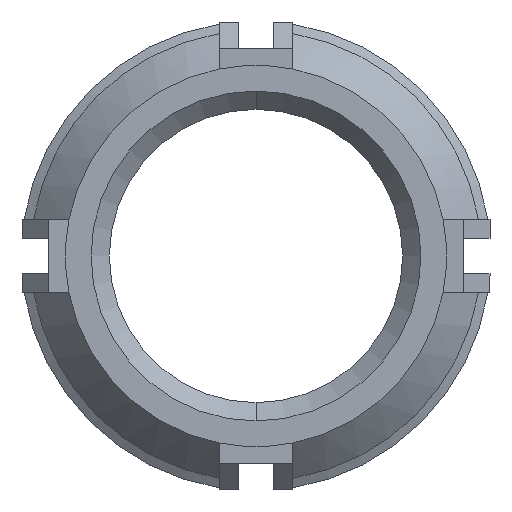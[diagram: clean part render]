
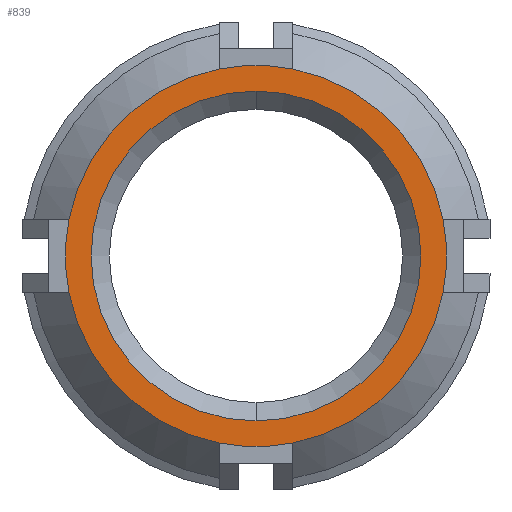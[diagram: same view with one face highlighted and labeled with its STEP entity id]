
A CAD part, front view. The second image highlights one B-rep face of the part: STEP entity #839.
In plain terms, the highlighted planar face has unit normal (0, -1, 0).
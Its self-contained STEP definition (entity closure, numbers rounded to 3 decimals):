
#14 = EDGE_CURVE ( 'NONE', #3335, #3286, #1915, .T. ) ;
#26 = DIRECTION ( 'NONE',  ( 0., -1., 0. ) ) ;
#195 = EDGE_CURVE ( 'NONE', #386, #4370, #1780, .T. ) ;
#244 = VERTEX_POINT ( 'NONE', #481 ) ;
#366 = CARTESIAN_POINT ( 'NONE',  ( 0., -16., 0. ) ) ;
#386 = VERTEX_POINT ( 'NONE', #577 ) ;
#388 = CIRCLE ( 'NONE', #2837, 6.5 ) ;
#393 = CARTESIAN_POINT ( 'NONE',  ( 0., -16., 0. ) ) ;
#407 = DIRECTION ( 'NONE',  ( 0., 0., -1. ) ) ;
#481 = CARTESIAN_POINT ( 'NONE',  ( 6.379, -16., 1.25 ) ) ;
#493 = DIRECTION ( 'NONE',  ( 0., 0., 1. ) ) ;
#508 = CARTESIAN_POINT ( 'NONE',  ( 0., -16., 0. ) ) ;
#555 = AXIS2_PLACEMENT_3D ( 'NONE', #1814, #3501, #4369 ) ;
#577 = CARTESIAN_POINT ( 'NONE',  ( -6.379, -16., -1.25 ) ) ;
#588 = DIRECTION ( 'NONE',  ( 0., 0., 1. ) ) ;
#799 = EDGE_LOOP ( 'NONE', ( #2552, #3495 ) ) ;
#839 = ADVANCED_FACE ( 'NONE', ( #2740, #4522 ), #930, .F. ) ;
#930 = PLANE ( 'NONE',  #1614 ) ;
#983 = DIRECTION ( 'NONE',  ( 0., 0., 1. ) ) ;
#1123 = AXIS2_PLACEMENT_3D ( 'NONE', #3550, #2201, #3479 ) ;
#1124 = CARTESIAN_POINT ( 'NONE',  ( 0., -16., -5.625 ) ) ;
#1142 = VERTEX_POINT ( 'NONE', #1303 ) ;
#1145 = AXIS2_PLACEMENT_3D ( 'NONE', #2681, #26, #493 ) ;
#1156 = EDGE_CURVE ( 'NONE', #3286, #3335, #2809, .T. ) ;
#1239 = DIRECTION ( 'NONE',  ( 0., 0., 1. ) ) ;
#1261 = CARTESIAN_POINT ( 'NONE',  ( -1.25, -16., -6.379 ) ) ;
#1303 = CARTESIAN_POINT ( 'NONE',  ( -1.25, -16., 6.379 ) ) ;
#1375 = EDGE_CURVE ( 'NONE', #1142, #1996, #3914, .T. ) ;
#1418 = DIRECTION ( 'NONE',  ( 0., 0., 1. ) ) ;
#1474 = CARTESIAN_POINT ( 'NONE',  ( 0., -16., 5.625 ) ) ;
#1614 = AXIS2_PLACEMENT_3D ( 'NONE', #1858, #3173, #1418 ) ;
#1770 = AXIS2_PLACEMENT_3D ( 'NONE', #5659, #3028, #4789 ) ;
#1780 = CIRCLE ( 'NONE', #1123, 6.5 ) ;
#1783 = ORIENTED_EDGE ( 'NONE', *, *, #2575, .T. ) ;
#1814 = CARTESIAN_POINT ( 'NONE',  ( 0., -16., 0. ) ) ;
#1858 = CARTESIAN_POINT ( 'NONE',  ( 0., -16., 0. ) ) ;
#1915 = CIRCLE ( 'NONE', #3118, 5.625 ) ;
#1945 = AXIS2_PLACEMENT_3D ( 'NONE', #393, #4469, #5455 ) ;
#1996 = VERTEX_POINT ( 'NONE', #2984 ) ;
#2201 = DIRECTION ( 'NONE',  ( 0., -1., 0. ) ) ;
#2399 = CARTESIAN_POINT ( 'NONE',  ( 0., -16., 0. ) ) ;
#2414 = ORIENTED_EDGE ( 'NONE', *, *, #4989, .T. ) ;
#2426 = ORIENTED_EDGE ( 'NONE', *, *, #4094, .T. ) ;
#2552 = ORIENTED_EDGE ( 'NONE', *, *, #14, .T. ) ;
#2569 = AXIS2_PLACEMENT_3D ( 'NONE', #508, #3155, #983 ) ;
#2575 = EDGE_CURVE ( 'NONE', #244, #4987, #388, .T. ) ;
#2628 = VERTEX_POINT ( 'NONE', #4336 ) ;
#2656 = ORIENTED_EDGE ( 'NONE', *, *, #5265, .T. ) ;
#2681 = CARTESIAN_POINT ( 'NONE',  ( 0., -16., 0. ) ) ;
#2740 = FACE_BOUND ( 'NONE', #799, .T. ) ;
#2809 = CIRCLE ( 'NONE', #2569, 5.625 ) ;
#2837 = AXIS2_PLACEMENT_3D ( 'NONE', #3445, #3462, #1239 ) ;
#2881 = ORIENTED_EDGE ( 'NONE', *, *, #4915, .T. ) ;
#2966 = CARTESIAN_POINT ( 'NONE',  ( 1.25, -16., -6.379 ) ) ;
#2984 = CARTESIAN_POINT ( 'NONE',  ( -6.379, -16., 1.25 ) ) ;
#3028 = DIRECTION ( 'NONE',  ( 0., -1., 0. ) ) ;
#3049 = CARTESIAN_POINT ( 'NONE',  ( 0., -16., 0. ) ) ;
#3118 = AXIS2_PLACEMENT_3D ( 'NONE', #366, #5159, #3464 ) ;
#3155 = DIRECTION ( 'NONE',  ( 0., 1., 0. ) ) ;
#3173 = DIRECTION ( 'NONE',  ( 0., 1., 0. ) ) ;
#3248 = DIRECTION ( 'NONE',  ( 0., -1., 0. ) ) ;
#3250 = EDGE_LOOP ( 'NONE', ( #2656, #4319, #2426, #3416, #2414, #1783, #2881, #3485 ) ) ;
#3286 = VERTEX_POINT ( 'NONE', #1474 ) ;
#3335 = VERTEX_POINT ( 'NONE', #1124 ) ;
#3341 = CIRCLE ( 'NONE', #1770, 6.5 ) ;
#3416 = ORIENTED_EDGE ( 'NONE', *, *, #4350, .T. ) ;
#3445 = CARTESIAN_POINT ( 'NONE',  ( 0., -16., 0. ) ) ;
#3462 = DIRECTION ( 'NONE',  ( 0., -1., 0. ) ) ;
#3464 = DIRECTION ( 'NONE',  ( 0., 0., 1. ) ) ;
#3479 = DIRECTION ( 'NONE',  ( 0., 0., 1. ) ) ;
#3485 = ORIENTED_EDGE ( 'NONE', *, *, #1375, .T. ) ;
#3495 = ORIENTED_EDGE ( 'NONE', *, *, #1156, .T. ) ;
#3501 = DIRECTION ( 'NONE',  ( 0., -1., 0. ) ) ;
#3550 = CARTESIAN_POINT ( 'NONE',  ( 0., -16., 0. ) ) ;
#3914 = CIRCLE ( 'NONE', #5566, 6.5 ) ;
#3965 = CIRCLE ( 'NONE', #555, 6.5 ) ;
#4094 = EDGE_CURVE ( 'NONE', #4370, #4407, #4368, .T. ) ;
#4099 = AXIS2_PLACEMENT_3D ( 'NONE', #3049, #5742, #407 ) ;
#4319 = ORIENTED_EDGE ( 'NONE', *, *, #195, .T. ) ;
#4336 = CARTESIAN_POINT ( 'NONE',  ( 6.379, -16., -1.25 ) ) ;
#4350 = EDGE_CURVE ( 'NONE', #4407, #2628, #3341, .T. ) ;
#4368 = CIRCLE ( 'NONE', #1945, 6.5 ) ;
#4369 = DIRECTION ( 'NONE',  ( 1., 0., 0. ) ) ;
#4370 = VERTEX_POINT ( 'NONE', #1261 ) ;
#4407 = VERTEX_POINT ( 'NONE', #2966 ) ;
#4421 = CARTESIAN_POINT ( 'NONE',  ( 1.25, -16., 6.379 ) ) ;
#4469 = DIRECTION ( 'NONE',  ( 0., -1., 0. ) ) ;
#4522 = FACE_OUTER_BOUND ( 'NONE', #3250, .T. ) ;
#4789 = DIRECTION ( 'NONE',  ( 0., 0., 1. ) ) ;
#4915 = EDGE_CURVE ( 'NONE', #4987, #1142, #3965, .T. ) ;
#4987 = VERTEX_POINT ( 'NONE', #4421 ) ;
#4989 = EDGE_CURVE ( 'NONE', #2628, #244, #5215, .T. ) ;
#5159 = DIRECTION ( 'NONE',  ( 0., 1., 0. ) ) ;
#5215 = CIRCLE ( 'NONE', #4099, 6.5 ) ;
#5265 = EDGE_CURVE ( 'NONE', #1996, #386, #5408, .T. ) ;
#5408 = CIRCLE ( 'NONE', #1145, 6.5 ) ;
#5455 = DIRECTION ( 'NONE',  ( -1., 0., 0. ) ) ;
#5566 = AXIS2_PLACEMENT_3D ( 'NONE', #2399, #3248, #588 ) ;
#5659 = CARTESIAN_POINT ( 'NONE',  ( 0., -16., 0. ) ) ;
#5742 = DIRECTION ( 'NONE',  ( 0., -1., 0. ) ) ;
